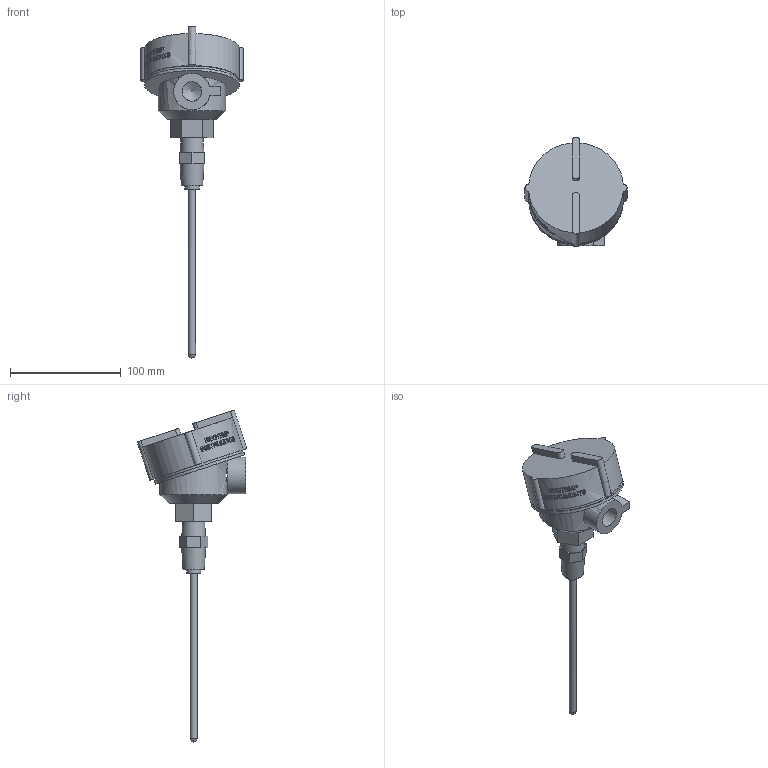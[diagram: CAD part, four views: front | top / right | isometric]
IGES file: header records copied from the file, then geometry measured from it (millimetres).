
Global section: file name: Explosion-Proof-Head-Spring-Loaded-IGS; native system: Autodesk Inventor 2014; preprocessor: unknown; author: Charles; date: 20151111.124043; units: inch
Bounding box: 92.19 x 99.01 x 299.92 mm (x, y, z)
Volume: 318171.1 mm3; surface area: 44583.2 mm2
Topology: 3 solids, 3 shells, 309 faces, 817 edges, 542 vertices
Faces by surface type: bspline 309
